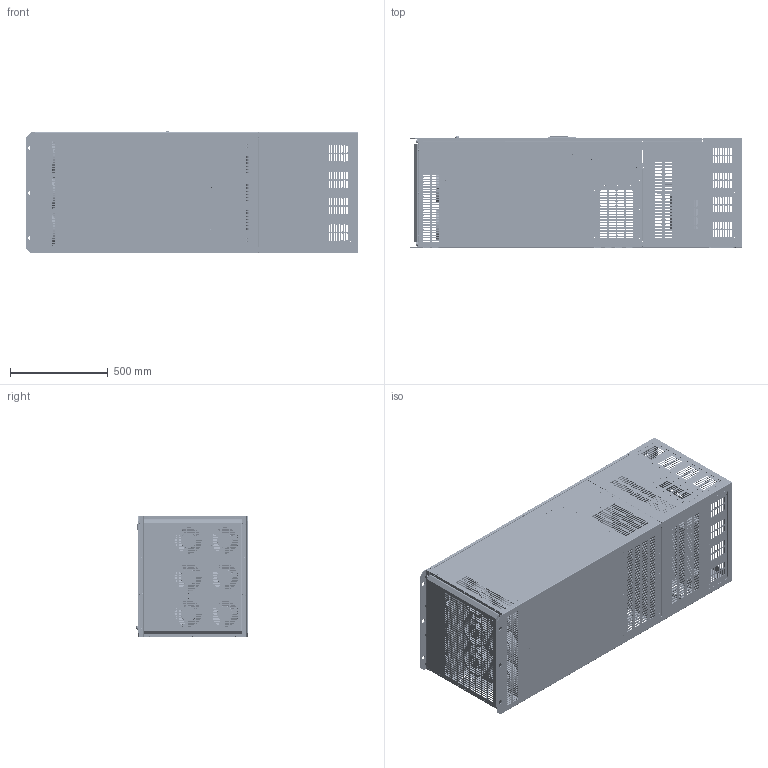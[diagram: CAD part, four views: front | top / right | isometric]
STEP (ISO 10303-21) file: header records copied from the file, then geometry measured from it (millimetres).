
FILE_DESCRIPTION((''),'2;1');
FILE_NAME('GD350-01-500G-4_ASM','2024-10-30T09:36:21',('Administrator'),(''),'CREO PARAMETRIC BY PTC INC, 2019080','CREO PARAMETRIC BY PTC INC, 2019080','');
FILE_SCHEMA(('CONFIG_CONTROL_DESIGN'));
Products named in the file (159): FAN-171X151_DC; FENG-150-ASM_ASM; 120FANG; INVT8_034_0058__0; INVT8_034_0059__0; JP-PCB__0; DIANWEIQI__0; INVT8_034_0060__0; INVT8_034_0065__0; INVT8_034_0064__0; SHUMAGUAN__0; JIANPENG_ASM; 39004-00037; 61009-00005; GD300-500G-4-ES_ASM; 80380254; S-M4-ZC; 80380254_ASM; 80380229; S-M5-ZC; BSO-M4-16-ZC; BSO-M4-12-ZC; 80380229_ASM; 80380274_ASM; 80380226; 80380230; 80380245; 80380245_ASM; 80380127; S-M8-ZC; 80380127_ASM; 80380250; 80380237; 80380219; 80380244; 80380244_ASM; 80380251; JIEDILUODING-R; 80380251_ASM; 80380239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
Assembly tree (604 placements, depth 7):
  GD350-01-500G-4_ASM
    GD300-500G-4-ES_ASM
      FENG-150-ASM_ASM
        FAN-171X151_DC  x6
      120FANG  x2
      JIANPENG_ASM
        INVT8_034_0058__0
        INVT8_034_0059__0
        JP-PCB__0
        DIANWEIQI__0
        INVT8_034_0060__0
        INVT8_034_0065__0
        INVT8_034_0064__0
        SHUMAGUAN__0
      39004-00037  x9
      61009-00005  x2
    40802242_ASM
      61061126_ASM
        80380254_ASM
          80380254
          S-M4-ZC  x4
        80380229_ASM
          80380229
          S-M4-ZC  x36
          S-M5-ZC  x6
          BSO-M4-16-ZC  x4
          BSO-M4-12-ZC  x4
        80380274_ASM
        80380226  x2
        80380230
        80380245_ASM  x2
          80380245
          S-M4-ZC
        80380127_ASM  x10
          80380127
          S-M8-ZC
        80380250
        80380237  x2
        80380219
        80380244_ASM
          80380244
          S-M5-ZC  x2
        80380251_ASM
          80380251
          S-M4-ZC  x18
          JIEDILUODING-R
        80380239_ASM  x2
          80380239
          NZ-M10-ZC
        80380236_ASM
          80380236
          S-M5-ZC
        80380227
        80380228
        80380232_ASM  x2
          80380232
          NZ-M10-ZC
        80380272_ASM  x2
          80380272
          S-M4-ZC
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Bounding box: 1700 x 568.5 x 629.24 mm (x, y, z)
Volume: 33035073.3 mm3; surface area: 18349588.4 mm2
Topology: 626 solids, 655 shells, 41992 faces, 119334 edges, 84948 vertices
Faces by surface type: plane 25525, cylinder 11076, cone 3493, bspline 712, torus 692, sphere 420, extrusion 41, revolution 33
Entity records: 658666 total; most frequent: CARTESIAN_POINT 157045, DIRECTION 103847, ORIENTED_EDGE 96708, EDGE_CURVE 48354, VECTOR 38440, LINE 38417, AXIS2_PLACEMENT_3D 32695, VERTEX_POINT 31155
